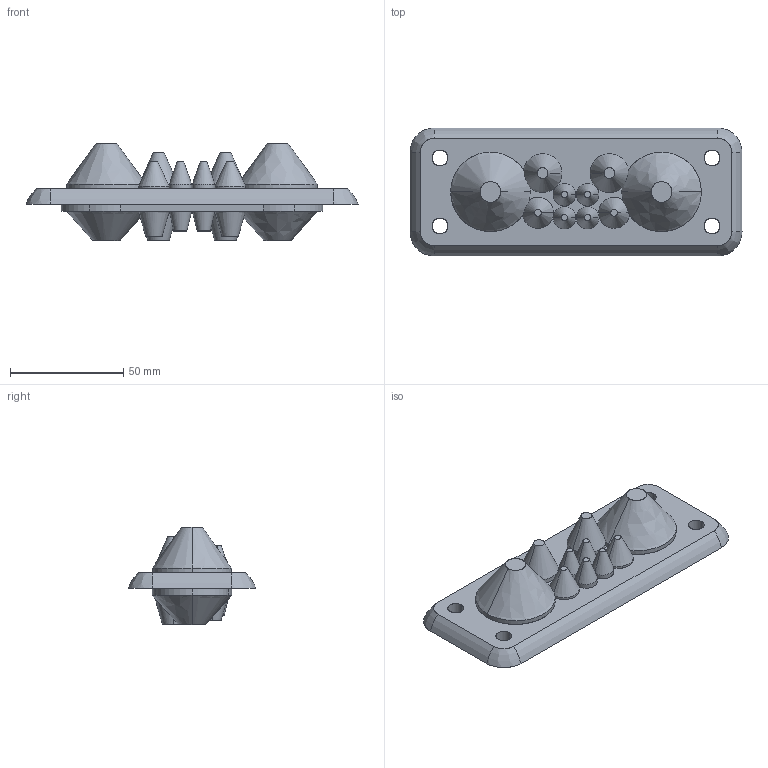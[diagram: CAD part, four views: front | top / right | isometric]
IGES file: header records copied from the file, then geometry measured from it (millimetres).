
Start section: SolidWorks IGES file using analytic representation for surfaces
Global section: file name: C:\Solidworks\omat tuotteet\Space charge models\Multigate\ip66 ip67\IGES\103607.IGS; native system: SolidWorks 2012; preprocessor: SolidWorks 2012; author: joni.lehtonen; date: 121204.125545; units: millimetre
Bounding box: 146.41 x 56.41 x 43 mm (x, y, z)
Surface area: 30063.4 mm2 (no closed solid volume)
Topology: 0 solids, 0 shells, 222 faces, 3565 edges, 3545 vertices
Faces by surface type: revolution 149, bspline 73
